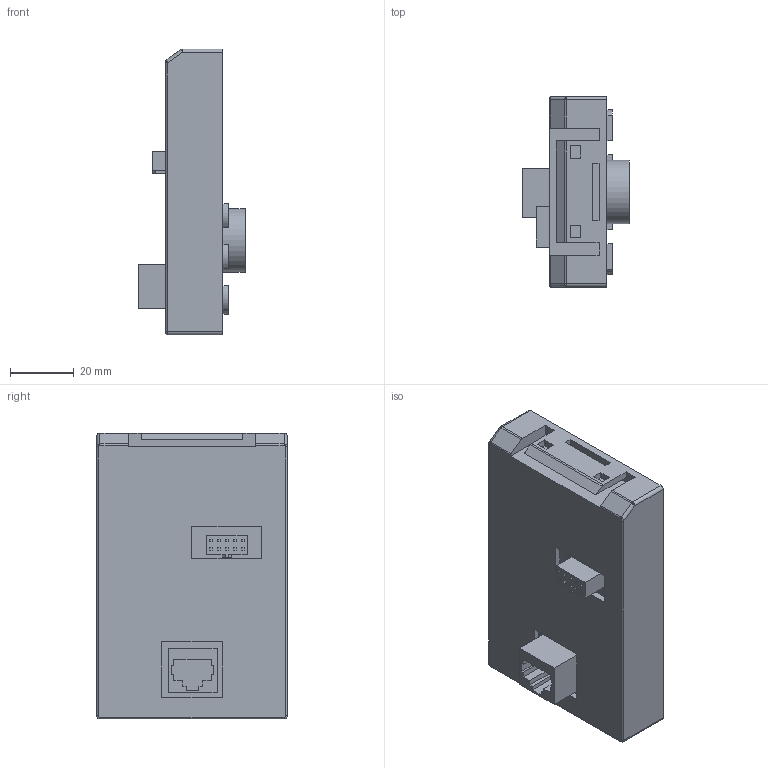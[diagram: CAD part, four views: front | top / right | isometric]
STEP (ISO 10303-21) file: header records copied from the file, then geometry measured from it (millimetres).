
FILE_DESCRIPTION(('STEP AP203'), '1');
FILE_NAME('Ïàíåëü óïðàâëåíèÿ _ LCI-KP-B', '', ('UNSPECIFIED'), ('UNSPECIFIED'), 'C3D Converter', 'C3D Toolkit', '');
FILE_SCHEMA(('CONFIG_CONTROL_DESIGN'));
Length unit declared in the file: millimetre
Products named in the file (1): LCI-KP
Bounding box: 33.5 x 60 x 90 mm (x, y, z)
Volume: 94373.5 mm3; surface area: 23606.1 mm2
Topology: 1 solids, 1 shells, 215 faces, 546 edges, 358 vertices
Faces by surface type: plane 177, cylinder 32, sphere 2, torus 2, bspline 2
Full cylindrical faces by diameter (mm): 20 x1, 21 x1
Entity records: 8272 total; most frequent: CARTESIAN_POINT 1270, ORIENTED_EDGE 1084, DIRECTION 1030, EDGE_CURVE 542, LINE 474, VECTOR 474, VERTEX_POINT 358, AXIS2_PLACEMENT_3D 278
